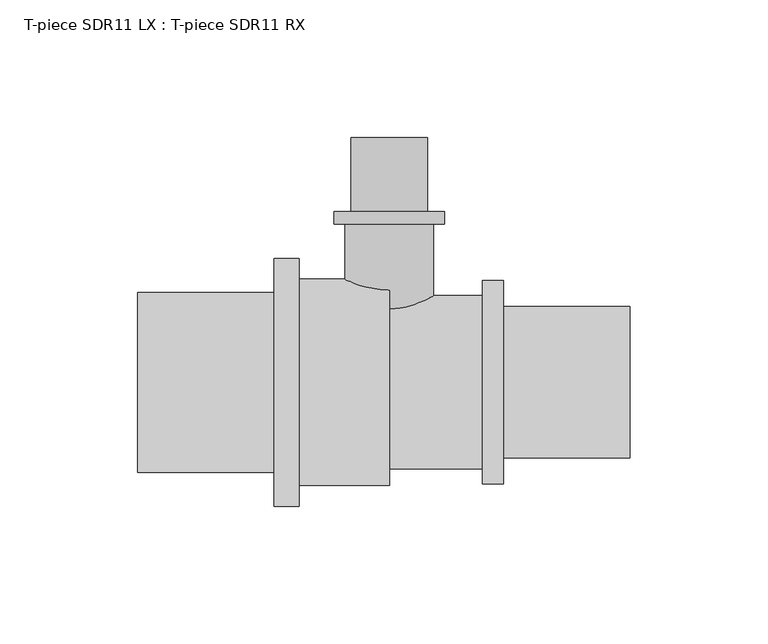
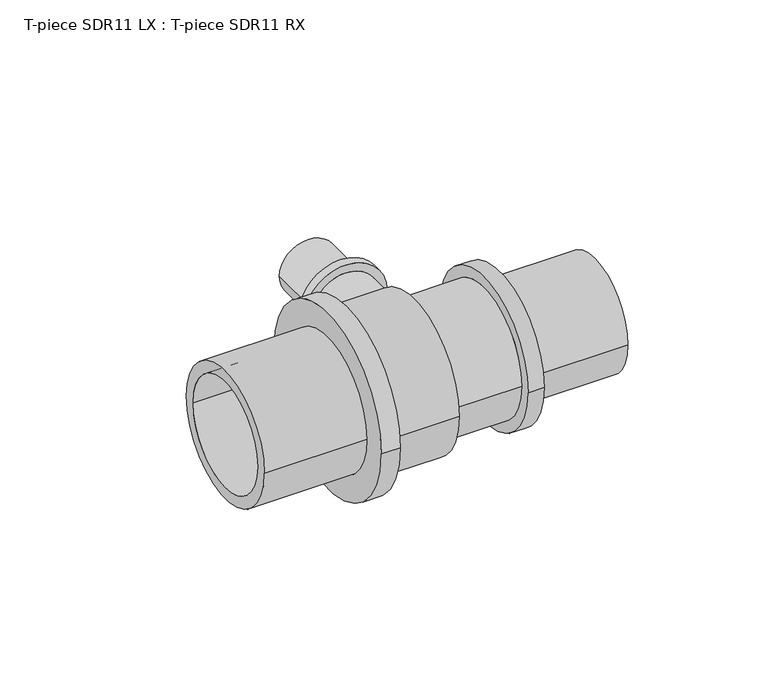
"""IFC4 building model written with IfcOpenShell, lengths in millimetres: pipe fitting geometry, T-piece SDR11 LX : T-piece SDR11 RX."""

from ifc_helpers import new_model, si_unit, point, frame, origin, place, context, project, spatial, polyline, circle_curve, ellipse_curve, trimmed, source, transform, mapped, element, save
from ifc_brep_helpers import plane_surface, cylinder_surface, revolved_surface, advanced_brep


def t_piece_sdr11_lx_t_piece_sdr11_rx_21ca84d2(model_context):
    return source(origin(), model_context, "Body", "AdvancedBrep", [
        advanced_brep(
        [(16.0, 0.9348712, 0.0), (-16.0, 0.9348712, 0.0), (-16.0, 57.5, 0.0), (16.0, 57.5, 0.0), (11.2, 89.0, 0.0), (-11.2, 89.0, 0.0), (-11.2, 0.0, 0.0), (11.2, 0.0, 0.0), (13.95, 62.0, 0.0), (-13.95, 62.0, 0.0), (-13.95, 89.0, 0.0), (13.95, 89.0, 0.0), (20.0, 57.5, 0.0), (-20.0, 57.5, 0.0), (-20.0, 62.0, 0.0), (20.0, 62.0, 0.0)],
        [
            (0, 1, circle_curve(frame((0.0, 0.9348712, 0.0), z_axis=(0.0, 1.0, 0.0), x_axis=(-1.0, 0.0, 0.0)), 16.0)),
            (1, 2),
            (2, 3, circle_curve(frame((0.0, 57.5, 0.0), z_axis=(0.0, -1.0, 0.0), x_axis=(-1.0, 0.0, 0.0)), 16.0)),
            (3, 0),
            (4, 5, circle_curve(frame((0.0, 89.0, 0.0), z_axis=(0.0, 1.0, 0.0), x_axis=(-1.0, 0.0, 0.0)), 11.2)),
            (5, 6),
            (6, 7, circle_curve(frame((0.0, 0.0, 0.0), z_axis=(0.0, -1.0, 0.0), x_axis=(-1.0, 0.0, 0.0)), 11.2)),
            (7, 4),
            (8, 9, circle_curve(frame((0.0, 62.0, 0.0), z_axis=(0.0, 1.0, 0.0), x_axis=(-1.0, 0.0, 0.0)), 13.95)),
            (9, 10),
            (10, 11, circle_curve(frame((0.0, 89.0, 0.0), z_axis=(0.0, -1.0, 0.0), x_axis=(-1.0, 0.0, 0.0)), 13.95)),
            (11, 8),
            (12, 13, circle_curve(frame((0.0, 57.5, 0.0), z_axis=(0.0, 1.0, 0.0), x_axis=(-1.0, 0.0, 0.0)), 20.0)),
            (13, 14),
            (14, 15, circle_curve(frame((0.0, 62.0, 0.0), z_axis=(0.0, -1.0, 0.0), x_axis=(-1.0, 0.0, 0.0)), 20.0)),
            (15, 12),
            (12, 13, circle_curve(frame((0.0, 57.5, 0.0), z_axis=(0.0, -1.0, 0.0), x_axis=(1.0, 0.0, 0.0)), 20.0)),
            (2, 3, circle_curve(frame((0.0, 57.5, 0.0), z_axis=(0.0, 1.0, 0.0), x_axis=(1.0, 0.0, 0.0)), 16.0)),
            (1, 0, circle_curve(frame((0.0, 0.9348712, 0.0), z_axis=(0.0, 1.0, 0.0), x_axis=(1.0, 0.0, 0.0)), 16.0)),
            (5, 4, circle_curve(frame((0.0, 89.0, 0.0), z_axis=(0.0, 1.0, 0.0), x_axis=(1.0, 0.0, 0.0)), 11.2)),
            (7, 6, circle_curve(frame((0.0, 0.0, 0.0), z_axis=(0.0, -1.0, 0.0), x_axis=(1.0, 0.0, 0.0)), 11.2)),
            (10, 11, circle_curve(frame((0.0, 89.0, 0.0), z_axis=(0.0, 1.0, 0.0), x_axis=(1.0, 0.0, 0.0)), 13.95)),
            (9, 8, circle_curve(frame((0.0, 62.0, 0.0), z_axis=(0.0, 1.0, 0.0), x_axis=(1.0, 0.0, 0.0)), 13.95)),
            (14, 15, circle_curve(frame((0.0, 62.0, 0.0), z_axis=(0.0, 1.0, 0.0), x_axis=(1.0, 0.0, 0.0)), 20.0)),
            (6, 1, circle_curve(frame((-6.4462802, 37.197475, 0.0), z_axis=(0.0, 0.0, -1.0), x_axis=(0.0, -1.0, 0.0)), 37.5)),
            (0, 7, circle_curve(frame((6.4462802, 37.197475, 0.0), z_axis=(0.0, 0.0, -1.0), x_axis=(0.0, -1.0, 0.0)), 37.5)),
        ],
        [
            cylinder_surface(frame((0.0, 0.0, 0.0), z_axis=(0.0, -1.0, 0.0), x_axis=(-1.0, 0.0, 0.0)), 16.0),
            revolved_surface(polyline([(-11.2, 0.0, 0.0), (-11.2, 89.0, 0.0)]), (0.0, 0.0, 0.0), (0.0, -1.0, 0.0)),
            cylinder_surface(frame((0.0, 0.0, 0.0), z_axis=(0.0, -1.0, 0.0), x_axis=(-1.0, 0.0, 0.0)), 13.95),
            cylinder_surface(frame((0.0, 0.0, 0.0), z_axis=(0.0, -1.0, 0.0), x_axis=(-1.0, 0.0, 0.0)), 20.0),
            plane_surface(frame((0.0, 57.5, 0.0), z_axis=(0.0, -1.0, 0.0), x_axis=(1.0, 0.0, 0.0))),
            cylinder_surface(frame((0.0, 0.0, 0.0), z_axis=(0.0, -1.0, 0.0), x_axis=(1.0, 0.0, 0.0)), 16.0),
            revolved_surface(polyline([(11.2, 0.0, 0.0), (11.2, 89.0, 0.0)]), (0.0, 0.0, 0.0), (0.0, -1.0, 0.0)),
            plane_surface(frame((0.0, 89.0, 0.0), z_axis=(0.0, 1.0, 0.0), x_axis=(1.0, 0.0, 0.0))),
            cylinder_surface(frame((0.0, 0.0, 0.0), z_axis=(0.0, -1.0, 0.0), x_axis=(1.0, 0.0, 0.0)), 13.95),
            plane_surface(frame((0.0, 62.0, 0.0), z_axis=(0.0, 1.0, 0.0), x_axis=(1.0, 0.0, 0.0))),
            cylinder_surface(frame((0.0, 0.0, 0.0), z_axis=(0.0, -1.0, 0.0), x_axis=(1.0, 0.0, 0.0)), 20.0),
            revolved_surface(trimmed(ellipse_curve(frame((-6.4462802, 37.197475, 0.0), z_axis=(0.0, 0.0, 1.0), x_axis=(0.0, -1.0, 0.0)), 37.5, 37.5), [point((-16.0, 0.9348712, 0.0))], [point((-11.2, 0.0, 0.0))], True, "CARTESIAN"), (0.0, 0.0, 0.0), (0.0, -1.0, 0.0)),
            revolved_surface(trimmed(ellipse_curve(frame((6.4462802, 37.197475, 0.0), z_axis=(0.0, 0.0, -1.0), x_axis=(0.0, -1.0, 0.0)), 37.5, 37.5), [point((16.0, 0.9348712, 0.0))], [point((11.2, 0.0, 0.0))], True, "CARTESIAN"), (0.0, 0.0, 0.0), (0.0, -1.0, 0.0)),
        ],
        [
            (0, [[1, 2, 3, 4]]),
            (1, [[5, 6, 7, 8]]),
            (2, [[9, 10, 11, 12]]),
            (3, [[13, 14, 15, 16]]),
            (4, [[17, -13], [18, -3]]),
            (5, [[19, -4, -18, -2]]),
            (6, [[20, -8, 21, -6]]),
            (7, [[22, -11], [-20, -5]]),
            (8, [[23, -12, -22, -10]]),
            (9, [[24, -15], [-23, -9]]),
            (10, [[-17, -16, -24, -14]]),
            (11, [[-7, 25, -1, 26]]),
            (12, [[-21, -26, -19, -25]]),
        ],
    ),
        advanced_brep(
        [(33.8, 31.5, 0.0), (33.8, -31.5, 0.0), (0.0, -31.5, 0.0), (0.0, 31.5, 0.0), (0.0, 22.0, 0.0), (0.0, -22.0, 0.0), (87.5, -22.0, 0.0), (87.5, 22.0, 0.0), (87.5, 27.55, 0.0), (87.5, -27.55, 0.0), (41.5, -27.55, 0.0), (41.5, 27.55, 0.0), (41.5, 37.0, 0.0), (41.5, -37.0, 0.0), (33.8, -37.0, 0.0), (33.8, 37.0, 0.0)],
        [
            (0, 1, circle_curve(frame((33.8, 0.0, 0.0), z_axis=(-1.0, 0.0, 0.0), x_axis=(0.0, -1.0, 0.0)), 31.5)),
            (1, 2),
            (2, 3, circle_curve(frame((0.0, 0.0, 0.0), z_axis=(1.0, 0.0, 0.0), x_axis=(0.0, -1.0, 0.0)), 31.5)),
            (3, 0),
            (4, 5, circle_curve(frame((0.0, 0.0, 0.0), z_axis=(-1.0, 0.0, 0.0), x_axis=(0.0, -1.0, 0.0)), 22.0)),
            (5, 6),
            (6, 7, circle_curve(frame((87.5, 0.0, 0.0), z_axis=(1.0, 0.0, 0.0), x_axis=(0.0, -1.0, 0.0)), 22.0)),
            (7, 4),
            (8, 9, circle_curve(frame((87.5, 0.0, 0.0), z_axis=(-1.0, 0.0, 0.0), x_axis=(0.0, -1.0, 0.0)), 27.55)),
            (9, 10),
            (10, 11, circle_curve(frame((41.5, 0.0, 0.0), z_axis=(1.0, 0.0, 0.0), x_axis=(0.0, -1.0, 0.0)), 27.55)),
            (11, 8),
            (12, 13, circle_curve(frame((41.5, 0.0, 0.0), z_axis=(-1.0, 0.0, 0.0), x_axis=(0.0, -1.0, 0.0)), 37.0)),
            (13, 14),
            (14, 15, circle_curve(frame((33.8, 0.0, 0.0), z_axis=(1.0, 0.0, 0.0), x_axis=(0.0, -1.0, 0.0)), 37.0)),
            (15, 12),
            (14, 15, circle_curve(frame((33.8, 0.0, 0.0), z_axis=(-1.0, 0.0, 0.0), x_axis=(0.0, 1.0, 0.0)), 37.0)),
            (0, 1, circle_curve(frame((33.8, 0.0, 0.0), z_axis=(1.0, 0.0, 0.0), x_axis=(0.0, 1.0, 0.0)), 31.5)),
            (3, 2, circle_curve(frame((0.0, 0.0, 0.0), z_axis=(1.0, 0.0, 0.0), x_axis=(0.0, 1.0, 0.0)), 31.5)),
            (4, 5, circle_curve(frame((0.0, 0.0, 0.0), z_axis=(1.0, 0.0, 0.0), x_axis=(0.0, 1.0, 0.0)), 22.0)),
            (7, 6, circle_curve(frame((87.5, 0.0, 0.0), z_axis=(1.0, 0.0, 0.0), x_axis=(0.0, 1.0, 0.0)), 22.0)),
            (8, 9, circle_curve(frame((87.5, 0.0, 0.0), z_axis=(1.0, 0.0, 0.0), x_axis=(0.0, 1.0, 0.0)), 27.55)),
            (11, 10, circle_curve(frame((41.5, 0.0, 0.0), z_axis=(1.0, 0.0, 0.0), x_axis=(0.0, 1.0, 0.0)), 27.55)),
            (12, 13, circle_curve(frame((41.5, 0.0, 0.0), z_axis=(1.0, 0.0, 0.0), x_axis=(0.0, 1.0, 0.0)), 37.0)),
        ],
        [
            cylinder_surface(frame((0.0, 0.0, 0.0), z_axis=(1.0, 0.0, 0.0), x_axis=(0.0, -1.0, 0.0)), 31.5),
            revolved_surface(polyline([(87.5, -22.0, 0.0), (0.0, -22.0, 0.0)]), (0.0, 0.0, 0.0), (1.0, 0.0, 0.0)),
            cylinder_surface(frame((0.0, 0.0, 0.0), z_axis=(1.0, 0.0, 0.0), x_axis=(0.0, -1.0, 0.0)), 27.55),
            cylinder_surface(frame((0.0, 0.0, 0.0), z_axis=(1.0, 0.0, 0.0), x_axis=(0.0, -1.0, 0.0)), 37.0),
            plane_surface(frame((33.8, 0.0, 0.0), z_axis=(-1.0, 0.0, 0.0), x_axis=(0.0, 1.0, 0.0))),
            cylinder_surface(frame((0.0, 0.0, 0.0), z_axis=(1.0, 0.0, 0.0), x_axis=(0.0, 1.0, 0.0)), 31.5),
            plane_surface(frame((0.0, 0.0, 0.0), z_axis=(-1.0, 0.0, 0.0), x_axis=(0.0, 1.0, 0.0))),
            revolved_surface(polyline([(87.5, 22.0, 0.0), (0.0, 22.0, 0.0)]), (0.0, 0.0, 0.0), (1.0, 0.0, 0.0)),
            plane_surface(frame((87.5, 0.0, 0.0), z_axis=(1.0, 0.0, 0.0), x_axis=(0.0, 1.0, 0.0))),
            cylinder_surface(frame((0.0, 0.0, 0.0), z_axis=(1.0, 0.0, 0.0), x_axis=(0.0, 1.0, 0.0)), 27.55),
            plane_surface(frame((41.5, 0.0, 0.0), z_axis=(1.0, 0.0, 0.0), x_axis=(0.0, 1.0, 0.0))),
            cylinder_surface(frame((0.0, 0.0, 0.0), z_axis=(1.0, 0.0, 0.0), x_axis=(0.0, 1.0, 0.0)), 37.0),
        ],
        [
            (0, [[1, 2, 3, 4]]),
            (1, [[5, 6, 7, 8]]),
            (2, [[9, 10, 11, 12]]),
            (3, [[13, 14, 15, 16]]),
            (4, [[17, -15], [18, -1]]),
            (5, [[-18, -4, 19, -2]]),
            (6, [[-19, -3], [20, -5]]),
            (7, [[-20, -8, 21, -6]]),
            (8, [[22, -9], [-21, -7]]),
            (9, [[-22, -12, 23, -10]]),
            (10, [[24, -13], [-23, -11]]),
            (11, [[-24, -16, -17, -14]]),
        ],
    ),
        advanced_brep(
        [(0.0, 37.5, 0.0), (0.0, -37.5, 0.0), (-32.7, -37.5, 0.0), (-32.7, 37.5, 0.0), (-91.5, 27.0, 0.0), (-91.5, -27.0, 0.0), (0.0, -27.0, 0.0), (0.0, 27.0, 0.0), (-41.9, 32.7, 0.0), (-41.9, -32.7, 0.0), (-91.5, -32.7, 0.0), (-91.5, 32.7, 0.0), (-32.7, 45.0, 0.0), (-32.7, -45.0, 0.0), (-41.9, -45.0, 0.0), (-41.9, 45.0, 0.0)],
        [
            (0, 1, circle_curve(frame((0.0, 0.0, 0.0), z_axis=(-1.0, 0.0, 0.0), x_axis=(0.0, -1.0, 0.0)), 37.5)),
            (1, 2),
            (2, 3, circle_curve(frame((-32.7, 0.0, 0.0), z_axis=(1.0, 0.0, 0.0), x_axis=(0.0, -1.0, 0.0)), 37.5)),
            (3, 0),
            (4, 5, circle_curve(frame((-91.5, 0.0, 0.0), z_axis=(-1.0, 0.0, 0.0), x_axis=(0.0, -1.0, 0.0)), 27.0)),
            (5, 6),
            (6, 7, circle_curve(frame((0.0, 0.0, 0.0), z_axis=(1.0, 0.0, 0.0), x_axis=(0.0, -1.0, 0.0)), 27.0)),
            (7, 4),
            (8, 9, circle_curve(frame((-41.9, 0.0, 0.0), z_axis=(-1.0, 0.0, 0.0), x_axis=(0.0, -1.0, 0.0)), 32.7)),
            (9, 10),
            (10, 11, circle_curve(frame((-91.5, 0.0, 0.0), z_axis=(1.0, 0.0, 0.0), x_axis=(0.0, -1.0, 0.0)), 32.7)),
            (11, 8),
            (12, 13, circle_curve(frame((-32.7, 0.0, 0.0), z_axis=(-1.0, 0.0, 0.0), x_axis=(0.0, -1.0, 0.0)), 45.0)),
            (13, 14),
            (14, 15, circle_curve(frame((-41.9, 0.0, 0.0), z_axis=(1.0, 0.0, 0.0), x_axis=(0.0, -1.0, 0.0)), 45.0)),
            (15, 12),
            (12, 13, circle_curve(frame((-32.7, 0.0, 0.0), z_axis=(1.0, 0.0, 0.0), x_axis=(0.0, 1.0, 0.0)), 45.0)),
            (2, 3, circle_curve(frame((-32.7, 0.0, 0.0), z_axis=(-1.0, 0.0, 0.0), x_axis=(0.0, 1.0, 0.0)), 37.5)),
            (1, 0, circle_curve(frame((0.0, 0.0, 0.0), z_axis=(-1.0, 0.0, 0.0), x_axis=(0.0, 1.0, 0.0)), 37.5)),
            (6, 7, circle_curve(frame((0.0, 0.0, 0.0), z_axis=(-1.0, 0.0, 0.0), x_axis=(0.0, 1.0, 0.0)), 27.0)),
            (5, 4, circle_curve(frame((-91.5, 0.0, 0.0), z_axis=(-1.0, 0.0, 0.0), x_axis=(0.0, 1.0, 0.0)), 27.0)),
            (10, 11, circle_curve(frame((-91.5, 0.0, 0.0), z_axis=(-1.0, 0.0, 0.0), x_axis=(0.0, 1.0, 0.0)), 32.7)),
            (9, 8, circle_curve(frame((-41.9, 0.0, 0.0), z_axis=(-1.0, 0.0, 0.0), x_axis=(0.0, 1.0, 0.0)), 32.7)),
            (14, 15, circle_curve(frame((-41.9, 0.0, 0.0), z_axis=(-1.0, 0.0, 0.0), x_axis=(0.0, 1.0, 0.0)), 45.0)),
        ],
        [
            cylinder_surface(frame((0.0, 0.0, 0.0), z_axis=(1.0, 0.0, 0.0), x_axis=(0.0, -1.0, 0.0)), 37.5),
            revolved_surface(polyline([(0.0, -27.0, 0.0), (-91.5, -27.0, 0.0)]), (0.0, 0.0, 0.0), (1.0, 0.0, 0.0)),
            cylinder_surface(frame((0.0, 0.0, 0.0), z_axis=(1.0, 0.0, 0.0), x_axis=(0.0, -1.0, 0.0)), 32.7),
            cylinder_surface(frame((0.0, 0.0, 0.0), z_axis=(1.0, 0.0, 0.0), x_axis=(0.0, -1.0, 0.0)), 45.0),
            plane_surface(frame((-32.7, 0.0, 0.0), z_axis=(1.0, 0.0, 0.0), x_axis=(0.0, 1.0, 0.0))),
            cylinder_surface(frame((0.0, 0.0, 0.0), z_axis=(1.0, 0.0, 0.0), x_axis=(0.0, 1.0, 0.0)), 37.5),
            plane_surface(frame((0.0, 0.0, 0.0), z_axis=(1.0, 0.0, 0.0), x_axis=(0.0, 1.0, 0.0))),
            revolved_surface(polyline([(0.0, 27.0, 0.0), (-91.5, 27.0, 0.0)]), (0.0, 0.0, 0.0), (1.0, 0.0, 0.0)),
            plane_surface(frame((-91.5, 0.0, 0.0), z_axis=(-1.0, 0.0, 0.0), x_axis=(0.0, 1.0, 0.0))),
            cylinder_surface(frame((0.0, 0.0, 0.0), z_axis=(1.0, 0.0, 0.0), x_axis=(0.0, 1.0, 0.0)), 32.7),
            plane_surface(frame((-41.9, 0.0, 0.0), z_axis=(-1.0, 0.0, 0.0), x_axis=(0.0, 1.0, 0.0))),
            cylinder_surface(frame((0.0, 0.0, 0.0), z_axis=(1.0, 0.0, 0.0), x_axis=(0.0, 1.0, 0.0)), 45.0),
        ],
        [
            (0, [[1, 2, 3, 4]]),
            (1, [[5, 6, 7, 8]]),
            (2, [[9, 10, 11, 12]]),
            (3, [[13, 14, 15, 16]]),
            (4, [[17, -13], [18, -3]]),
            (5, [[19, -4, -18, -2]]),
            (6, [[-19, -1], [20, -7]]),
            (7, [[21, -8, -20, -6]]),
            (8, [[22, -11], [-21, -5]]),
            (9, [[23, -12, -22, -10]]),
            (10, [[24, -15], [-23, -9]]),
            (11, [[-17, -16, -24, -14]]),
        ],
    ),
    ])


if __name__ == "__main__":
    model = new_model("IFC4")
    model_context = context("Model", 3, world=origin())
    ifc_project = project(units=[si_unit("LENGTHUNIT", "METRE", prefix="MILLI")], contexts=[model_context])
    site = spatial("IfcSite", under=ifc_project)
    building = spatial("IfcBuilding", under=site)
    placement = place(None, origin())
    t_piece_sdr11_lx_t_piece_sdr11_rx_shape = t_piece_sdr11_lx_t_piece_sdr11_rx_21ca84d2(model_context)
    element("IfcPipeFitting", 1, ObjectType="T-piece SDR11 LX : T-piece SDR11 RX", at=placement, inside=building, context=model_context, shape_type="MappedRepresentation", body=[
        mapped(t_piece_sdr11_lx_t_piece_sdr11_rx_shape, transform((0.0, 0.0, 0.0), x_axis=(1.0, 0.0, 0.0), y_axis=(0.0, 1.0, 0.0), z_axis=(0.0, 0.0, 1.0))),
    ])
    save(model, "model.ifc")
